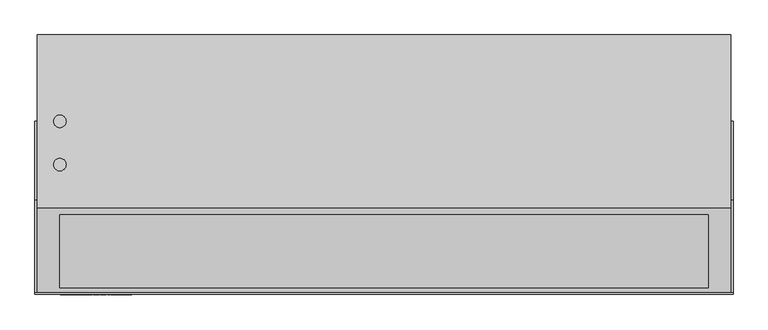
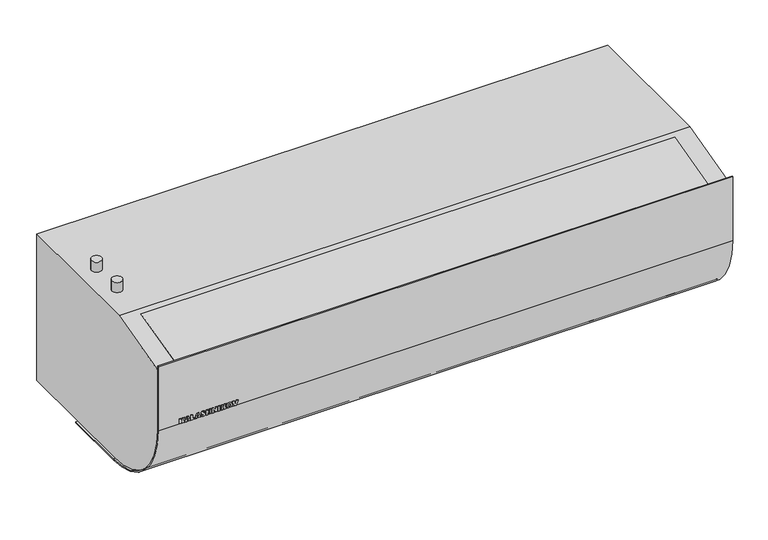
"""IFC4 building model written with IfcOpenShell, lengths in millimetres: proxy geometry, ADSK_Завеса_Водяная : KVC-D10W20-11."""

from ifc_helpers import new_model, si_unit, point, frame, frame_2d, origin, place, context, project, spatial, polyline, circle_curve, trimmed, segment, composite_curve, outline, extrude, source, transform, mapped, element, save
from ifc_brep_helpers import plane_surface, cylinder_surface, advanced_brep


def mechanical_equipment_5d67843a(model_context):
    return source(origin(), model_context, "Body", "SolidModel", [
        extrude(outline(polyline([(162.0, -519.0196078), (152.0, -519.0196078), (152.0, -515.8823529), (153.7647059, -515.8823529), (155.7745098, -514.1115196), (152.0, -512.2794118), (152.0, -508.4313725), (158.2775735, -511.9056373), (162.0, -508.627451), (162.0, -512.8982843), (158.2224265, -515.8823529), (162.0, -515.8823529), (162.0, -519.0196078)])), frame((0.0, -417.0, 0.0), z_axis=(0.0, 1.0, 0.0), x_axis=(0.0, 0.0, 1.0)), (0.0, 0.0, 1.0), 1.0),
        extrude(outline(polyline([(153.5686275, -501.4338235), (152.0, -500.9803922), (152.0, -497.6470588), (162.0, -501.0202206), (162.0, -505.0582108), (152.0, -508.4313725), (152.0, -505.0980392), (153.5686275, -504.6660539), (153.5686275, -501.4338235)]), holes=[polyline([(155.9215686, -502.0281863), (155.9215686, -504.0165441), (159.4540441, -503.0392157), (155.9215686, -502.0281863)])]), frame((0.0, -417.0, 0.0), z_axis=(0.0, 1.0, 0.0), x_axis=(0.0, 0.0, 1.0)), (0.0, 0.0, 1.0), 1.0),
        extrude(outline(polyline([(162.0, -496.6666667), (152.0, -496.6666667), (152.0, -488.8235294), (154.3529412, -488.8235294), (154.3529412, -493.5294118), (162.0, -493.5294118), (162.0, -496.6666667)])), frame((0.0, -417.0, 0.0), z_axis=(0.0, 1.0, 0.0), x_axis=(0.0, 0.0, 1.0)), (0.0, 0.0, 1.0), 1.0),
        extrude(outline(polyline([(153.5686275, -481.4338235), (152.0, -480.9803922), (152.0, -477.6470588), (162.0, -481.0202206), (162.0, -485.0582108), (152.0, -488.4313725), (152.0, -485.0980392), (153.5686275, -484.6660539), (153.5686275, -481.4338235)]), holes=[polyline([(155.9215686, -482.0281863), (155.9215686, -484.0165441), (159.4540441, -483.0392157), (155.9215686, -482.0281863)])]), frame((0.0, -417.0, 0.0), z_axis=(0.0, 1.0, 0.0), x_axis=(0.0, 0.0, 1.0)), (0.0, 0.0, 1.0), 1.0),
        extrude(outline(polyline([(155.3394608, -477.254902), (152.8026961, -476.1488971), (151.8039216, -472.6378676), (152.2297794, -470.2420343), (153.4813113, -468.7637868), (155.28125, -468.2352941), (156.7870711, -468.6305147), (157.9129902, -469.8958333), (158.8106618, -472.7757353), (160.4313725, -472.9074755), (160.1050858, -472.1338848), (159.0588235, -471.7647059), (159.2395833, -468.627451), (161.4883578, -469.8054534), (162.1960784, -472.6807598), (161.8039216, -475.1011029), (160.7285539, -476.4231005), (159.276348, -476.8627451), (157.3492647, -475.9957108), (156.1237745, -473.1219363), (154.8186275, -471.372549), (154.0818015, -471.6865809), (153.7647059, -472.5796569), (154.3958333, -473.7775735), (155.5294118, -474.1176471), (155.3394608, -477.254902)])), frame((0.0, -417.0, 0.0), z_axis=(0.0, 1.0, 0.0), x_axis=(0.0, 0.0, 1.0)), (0.0, 0.0, 1.0), 1.0),
        extrude(outline(polyline([(162.0, -466.6666667), (152.0, -466.6666667), (152.0, -463.5294118), (156.1176471, -463.5294118), (156.1176471, -460.1960784), (152.0, -460.1960784), (152.0, -457.0588235), (162.0, -457.0588235), (162.0, -460.1960784), (158.4705882, -460.1960784), (158.4705882, -463.5294118), (162.0, -463.5294118), (162.0, -466.6666667)])), frame((0.0, -417.0, 0.0), z_axis=(0.0, 1.0, 0.0), x_axis=(0.0, 0.0, 1.0)), (0.0, 0.0, 1.0), 1.0),
        extrude(outline(polyline([(162.0, -455.0980392), (152.0, -455.0980392), (152.0, -452.1568627), (157.4901961, -452.1568627), (152.0, -448.4313725), (152.0, -445.4901961), (162.0, -445.4901961), (162.0, -448.4313725), (156.4730392, -448.4313725), (162.0, -452.1783088), (162.0, -455.0980392)])), frame((0.0, -417.0, 0.0), z_axis=(0.0, 1.0, 0.0), x_axis=(0.0, 0.0, 1.0)), (0.0, 0.0, 1.0), 1.0),
        extrude(outline(polyline([(-440.1960784, -417.0), (-443.3333333, -417.0), (-443.3333333, -416.0), (-440.1960784, -416.0), (-440.1960784, -417.0)])), frame((0.0, 0.0, 152.0), z_axis=(0.0, 0.0, 1.0), x_axis=(1.0, 0.0, 0.0)), (0.0, 0.0, 1.0), 10.0),
        extrude(outline(polyline([(162.0, -438.0392157), (152.0, -438.0392157), (152.0, -434.9019608), (153.7647059, -434.9019608), (155.7745098, -433.1311275), (152.0, -431.2990196), (152.0, -427.4509804), (158.2775735, -430.9252451), (162.0, -427.6470588), (162.0, -431.9178922), (158.2224265, -434.9019608), (162.0, -434.9019608), (162.0, -438.0392157)])), frame((0.0, -417.0, 0.0), z_axis=(0.0, 1.0, 0.0), x_axis=(0.0, 0.0, 1.0)), (0.0, 0.0, 1.0), 1.0),
        extrude(outline(polyline([(156.9938725, -426.8627451), (154.0603554, -426.171875), (152.346201, -424.3688725), (151.8039216, -421.5594363), (152.4304534, -418.7729779), (154.1859681, -417.0618873), (157.0765931, -416.4705882), (160.8495711, -417.8247549), (162.1960784, -421.685049), (160.8250613, -425.4947917), (156.9938725, -426.8627451)]), holes=[polyline([(156.9938725, -423.7254902), (159.1813725, -423.1678922), (159.8431373, -421.6911765), (159.1920956, -420.1685049), (157.1286765, -419.6078431), (154.8048407, -420.145527), (154.1568627, -421.6636029), (154.8186275, -423.1709559), (156.9938725, -423.7254902)])]), frame((0.0, -417.0, 0.0), z_axis=(0.0, 1.0, 0.0), x_axis=(0.0, 0.0, 1.0)), (0.0, 0.0, 1.0), 1.0),
        extrude(outline(polyline([(162.0, -415.6862745), (152.0, -411.9699755), (152.0, -408.6397059), (162.0, -404.9019608), (162.0, -408.2352941), (154.8033088, -410.2941176), (162.0, -412.3560049), (162.0, -415.6862745)])), frame((0.0, -417.0, 0.0), z_axis=(0.0, 1.0, 0.0), x_axis=(0.0, 0.0, 1.0)), (0.0, 0.0, 1.0), 1.0),
        extrude(outline(polyline([(-26.4444444, 10.0), (-26.4444444, 0.0), (-48.8888889, 10.0), (-48.8888889, 0.0), (-71.3333333, 10.0), (-71.3333333, 0.0), (-93.7777778, 10.0), (-93.7777778, 0.0), (-116.2222222, 10.0), (-116.2222222, 0.0), (-138.5833165, 10.5360909), (-4.0, 10.5360909), (-4.0, 0.0), (-26.4444444, 10.0)])), frame((-520.0, 0.0, 0.0), z_axis=(1.0, 0.0, 0.0), x_axis=(0.0, 1.0, 0.0)), (0.0, 0.0, 1.0), 1040.0),
        advanced_brep(
        [(556.0, -277.3333333, 304.0), (556.0, -414.0, 269.0), (556.0, -414.0, 152.0), (556.0, -264.0, 2.0), (556.0, 0.0, 2.0), (556.0, 0.0, 304.0), (-556.0, -277.3333333, 304.0), (-556.0, 0.0, 304.0), (-556.0, 0.0, 2.0), (-556.0, -264.0, 2.0), (-556.0, -414.0, 152.0), (-556.0, -414.0, 269.0), (-510.0, -208.0, 304.0), (-530.0, -208.0, 304.0), (-510.0, -138.6666667, 304.0), (-530.0, -138.6666667, 304.0), (520.0, -4.0, 2.0), (-520.0, -4.0, 2.0), (-520.0, -138.6666667, 2.0), (520.0, -138.6666667, 2.0), (520.0, -4.0, 10.0), (520.0, -138.6666667, 10.0), (-520.0, -138.6666667, 10.0), (-520.0, -4.0, 10.0), (-530.0, -208.0, 324.0), (-510.0, -208.0, 324.0), (-530.0, -138.6666667, 324.0), (-510.0, -138.6666667, 324.0)],
        [
            (0, 1),
            (1, 2),
            (2, 3, circle_curve(frame((556.0, -264.0, 152.0), z_axis=(1.0, 0.0, 0.0), x_axis=(0.0, 1.0, 0.0)), 150.0)),
            (3, 4),
            (4, 5),
            (5, 0),
            (6, 7),
            (7, 8),
            (8, 9),
            (9, 10, circle_curve(frame((-556.0, -264.0, 152.0), z_axis=(-1.0, 0.0, 0.0), x_axis=(0.0, 1.0, 0.0)), 150.0)),
            (10, 11),
            (11, 6),
            (1, 11),
            (10, 2),
            (4, 8),
            (7, 5),
            (6, 0),
            (12, 13, circle_curve(frame((-520.0, -208.0, 304.0), z_axis=(0.0, 0.0, -1.0), x_axis=(1.0, 0.0, 0.0)), 10.0)),
            (13, 12, circle_curve(frame((-520.0, -208.0, 304.0), z_axis=(0.0, 0.0, -1.0), x_axis=(1.0, 0.0, 0.0)), 10.0)),
            (14, 15, circle_curve(frame((-520.0, -138.6666667, 304.0), z_axis=(0.0, 0.0, -1.0), x_axis=(1.0, 0.0, 0.0)), 10.0)),
            (15, 14, circle_curve(frame((-520.0, -138.6666667, 304.0), z_axis=(0.0, 0.0, -1.0), x_axis=(1.0, 0.0, 0.0)), 10.0)),
            (9, 3),
            (16, 17),
            (17, 18),
            (18, 19),
            (19, 16),
            (20, 21),
            (21, 22),
            (22, 23),
            (23, 20),
            (23, 17),
            (16, 20),
            (22, 18),
            (21, 19),
            (24, 25, circle_curve(frame((-520.0, -208.0, 324.0), z_axis=(0.0, 0.0, 1.0), x_axis=(1.0, 0.0, 0.0)), 10.0)),
            (25, 24, circle_curve(frame((-520.0, -208.0, 324.0), z_axis=(0.0, 0.0, 1.0), x_axis=(1.0, 0.0, 0.0)), 10.0)),
            (26, 27, circle_curve(frame((-520.0, -138.6666667, 324.0), z_axis=(0.0, 0.0, 1.0), x_axis=(1.0, 0.0, 0.0)), 10.0)),
            (27, 26, circle_curve(frame((-520.0, -138.6666667, 324.0), z_axis=(0.0, 0.0, 1.0), x_axis=(1.0, 0.0, 0.0)), 10.0)),
            (24, 13),
            (12, 25),
            (26, 15),
            (14, 27),
        ],
        [
            plane_surface(frame((556.0, -277.3333333, 304.0), z_axis=(1.0, 0.0, 0.0), x_axis=(0.0, -0.9687367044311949, -0.24809110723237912))),
            plane_surface(frame((-556.0, -277.3333333, 304.0), z_axis=(-1.0, 0.0, 0.0), x_axis=(0.0, 0.9687367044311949, 0.24809110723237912))),
            plane_surface(frame((556.0, -414.0, 269.0), z_axis=(0.0, -1.0, 0.0), x_axis=(-1.0, 0.0, 0.0))),
            plane_surface(frame((556.0, 0.0, 2.0), z_axis=(0.0, 1.0, 0.0), x_axis=(-1.0, 0.0, 0.0))),
            plane_surface(frame((556.0, 0.0, 304.0), z_axis=(0.0, 0.0, 1.0), x_axis=(-1.0, 0.0, 0.0))),
            cylinder_surface(frame((-556.0, -264.0, 152.0), z_axis=(1.0, 0.0, 0.0), x_axis=(0.0, 1.0, 0.0)), 150.0),
            plane_surface(frame((556.0, -264.0, 2.0), z_axis=(0.0, 0.0, -1.0), x_axis=(-1.0, 0.0, 0.0))),
            plane_surface(frame((556.0, -277.3333333, 304.0), z_axis=(0.0, -0.24809110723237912, 0.9687367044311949), x_axis=(-1.0, 0.0, 0.0))),
            plane_surface(frame((-520.0, -4.0, 10.0), z_axis=(0.0, 0.0, -1.0), x_axis=(-1.0, 0.0, 0.0))),
            plane_surface(frame((520.0, -4.0, 10.0), z_axis=(0.0, -1.0, 0.0), x_axis=(0.0, 0.0, -1.0))),
            plane_surface(frame((-520.0, -4.0, 10.0), z_axis=(1.0, 0.0, 0.0), x_axis=(0.0, 0.0, -1.0))),
            plane_surface(frame((-520.0, -138.6666667, 10.0), z_axis=(0.0, 1.0, 0.0), x_axis=(0.0, 0.0, -1.0))),
            plane_surface(frame((520.0, -138.6666667, 10.0), z_axis=(-1.0, 0.0, 0.0), x_axis=(0.0, 0.0, -1.0))),
            plane_surface(frame((-510.0, -208.0, 324.0), z_axis=(0.0, 0.0, 1.0), x_axis=(0.0, 1.0, 0.0))),
            cylinder_surface(frame((-520.0, -208.0, 304.0), z_axis=(0.0, 0.0, 1.0), x_axis=(1.0, 0.0, 0.0)), 10.0),
            cylinder_surface(frame((-520.0, -138.6666667, 0.0), z_axis=(0.0, 0.0, 1.0), x_axis=(1.0, 0.0, 0.0)), 10.0),
        ],
        [
            (0, [[1, 2, 3, 4, 5, 6]]),
            (1, [[7, 8, 9, 10, 11, 12]]),
            (2, [[-2, 13, -11, 14]]),
            (3, [[-5, 15, -8, 16]]),
            (4, [[-6, -16, -7, 17], [18, 19], [20, 21]]),
            (5, [[-3, -14, -10, 22]]),
            (6, [[-4, -22, -9, -15], [23, 24, 25, 26]]),
            (7, [[-1, -17, -12, -13]]),
            (8, [[27, 28, 29, 30]]),
            (9, [[-30, 31, -23, 32]]),
            (10, [[-29, 33, -24, -31]]),
            (11, [[-28, 34, -25, -33]]),
            (12, [[-27, -32, -26, -34]]),
            (13, [[35, 36]]),
            (13, [[37, 38]]),
            (14, [[-35, 39, -18, 40]]),
            (14, [[-36, -40, -19, -39]]),
            (15, [[-37, 41, -20, 42]]),
            (15, [[-38, -42, -21, -41]]),
        ],
    ),
        extrude(outline(polyline([(0.0, -120.8057216), (0.0, 0.0), (1040.0, 0.0), (1040.0, -120.8057216), (0.0, -120.8057216)])), frame((520.0, -405.390912, 270.2995374), z_axis=(0.0, -0.24809110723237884, 0.9687367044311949), x_axis=(-1.0, 0.0, 0.0)), (0.0, 0.0, 1.0), 1.7538572),
        extrude(outline(composite_curve([segment(polyline([(-416.0, 284.0), (-414.0, 284.0), (-414.0, 152.0)]), True, "CONTINUOUS"), segment(trimmed(circle_curve(frame_2d((-264.0, 152.0)), 150.0), [point((-414.0, 152.0))], [point((-264.0, 2.0))], True, "CARTESIAN"), True, "CONTINUOUS"), segment(polyline([(-264.0, 2.0), (-138.6666667, 2.0), (-138.6666667, 0.0), (-264.0, 0.0)]), True, "CONTINUOUS"), segment(trimmed(circle_curve(frame_2d((-264.0, 152.0)), 152.0), [point((-264.0, 0.0))], [point((-416.0, 152.0))], False, "CARTESIAN"), True, "CONTINUOUS"), segment(polyline([(-416.0, 152.0), (-416.0, 284.0)]), True, "CONTINUOUS")], self_intersect=False)), frame((-560.0, 0.0, 0.0), z_axis=(1.0, 0.0, 0.0), x_axis=(0.0, 1.0, 0.0)), (0.0, 0.0, 1.0), 1120.0),
    ])


if __name__ == "__main__":
    model = new_model("IFC4")
    model_context = context("Model", 3, world=origin())
    ifc_project = project(units=[si_unit("LENGTHUNIT", "METRE", prefix="MILLI")], contexts=[model_context])
    site = spatial("IfcSite", under=ifc_project)
    building = spatial("IfcBuilding", under=site)
    placement = place(None, origin())
    mechanical_equipment_shape = mechanical_equipment_5d67843a(model_context)
    element("IfcBuildingElementProxy", 1, Name="ADSK_Завеса_Водяная : KVC-D10W20-11", ObjectType="ADSK_Завеса_Водяная : KVC-D10W20-11", at=placement, inside=building, context=model_context, shape_type="MappedRepresentation", body=[
        mapped(mechanical_equipment_shape, transform((0.0, 0.0, 0.0), x_axis=(1.0, 0.0, 0.0), y_axis=(0.0, 1.0, 0.0), z_axis=(0.0, 0.0, 1.0))),
    ])
    save(model, "model.ifc")
